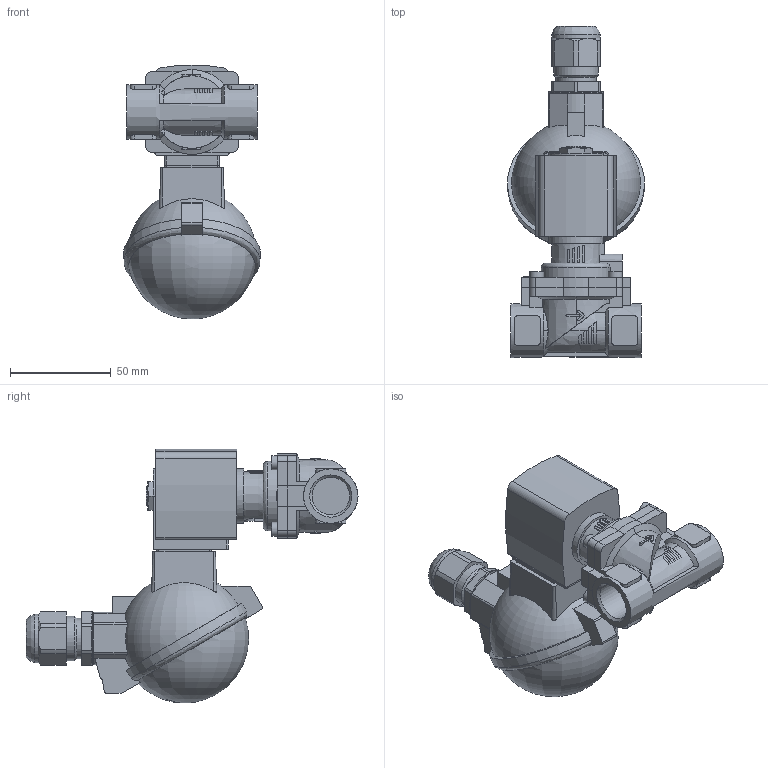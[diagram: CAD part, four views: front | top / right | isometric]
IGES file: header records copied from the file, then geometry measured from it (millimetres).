
Start section: Data from Parasolid IGES Translator 26.0.171, Copyright(c) 2006 Siemens PLM Software. All Rights Reserved.
Global section: file name: 6281-383115-2_2-Way_Solenoid_Valve__Servo-assisted__General_Purpose.igs; native system: By Siemens PLM Incorporated; preprocessor: XPlus GENERIC/IGES 26.0.171; author: Noname; organization: Noname; date: 20240820.161636; units: millimetre
Bounding box: 67.86 x 164.8 x 126.03 mm (x, y, z)
Surface area: 53603.5 mm2 (no closed solid volume)
Topology: 0 solids, 0 shells, 422 faces, 2251 edges, 2232 vertices
Faces by surface type: extrusion 247, revolution 175
